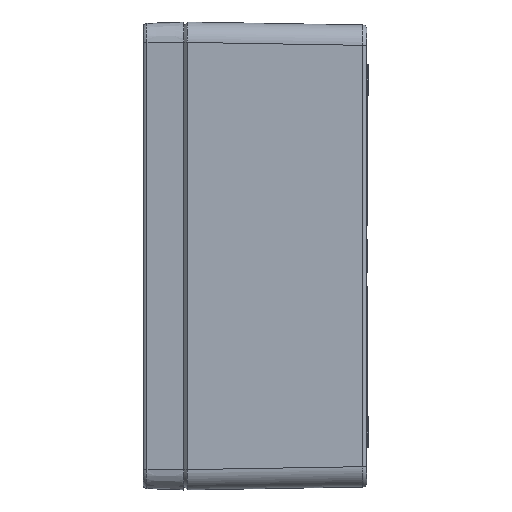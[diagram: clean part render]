
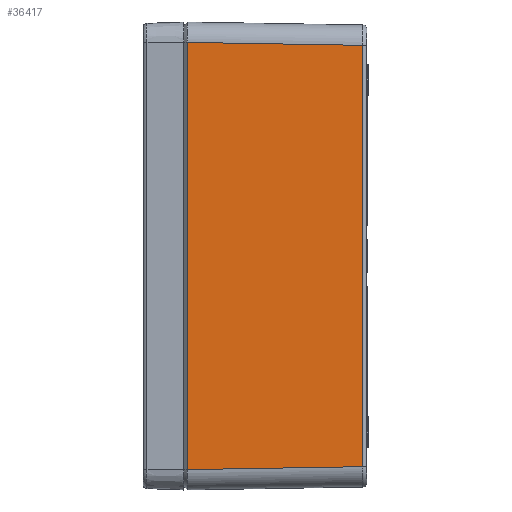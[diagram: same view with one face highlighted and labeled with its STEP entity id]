
A CAD part, left-side view. The second image highlights one B-rep face of the part: STEP entity #36417.
In plain terms, the highlighted planar face has unit normal (-1, -0.017, 0).
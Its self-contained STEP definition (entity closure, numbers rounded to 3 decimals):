
#6882 = LINE ( 'NONE', #36298, #51744 ) ;
#10008 = CARTESIAN_POINT ( 'NONE',  ( 271.893, -1.788, -104.972 ) ) ;
#10101 = CARTESIAN_POINT ( 'NONE',  ( 271.863, 0., -115. ) ) ;
#11384 = EDGE_CURVE ( 'NONE', #34445, #17500, #33574, .T. ) ;
#12583 = EDGE_LOOP ( 'NONE', ( #50953, #48882, #15831, #42420 ) ) ;
#14057 = DIRECTION ( 'NONE',  ( -0.017, 1., 0. ) ) ;
#15831 = ORIENTED_EDGE ( 'NONE', *, *, #11384, .T. ) ;
#17500 = VERTEX_POINT ( 'NONE', #33306 ) ;
#18057 = VECTOR ( 'NONE', #53100, 1000. ) ;
#18865 = LINE ( 'NONE', #44291, #38189 ) ;
#18882 = EDGE_CURVE ( 'NONE', #46085, #34445, #18865, .T. ) ;
#19177 = AXIS2_PLACEMENT_3D ( 'NONE', #10101, #39480, #14057 ) ;
#21396 = DIRECTION ( 'NONE',  ( -0.017, 1., 0.017 ) ) ;
#22262 = FACE_OUTER_BOUND ( 'NONE', #12583, .T. ) ;
#24062 = VECTOR ( 'NONE', #21396, 1000. ) ;
#24141 = DIRECTION ( 'NONE',  ( 0.017, -1., 0.017 ) ) ;
#27124 = LINE ( 'NONE', #44347, #18057 ) ;
#30911 = EDGE_CURVE ( 'NONE', #17500, #49550, #27124, .T. ) ;
#31855 = DIRECTION ( 'NONE',  ( 0., 0., 1. ) ) ;
#33306 = CARTESIAN_POINT ( 'NONE',  ( 271.893, -1.788, 104.972 ) ) ;
#33574 = LINE ( 'NONE', #43119, #24062 ) ;
#34445 = VERTEX_POINT ( 'NONE', #36898 ) ;
#36298 = CARTESIAN_POINT ( 'NONE',  ( 271.86, 0.166, -105.004 ) ) ;
#36417 = ADVANCED_FACE ( 'NONE', ( #22262 ), #52771, .T. ) ;
#36898 = CARTESIAN_POINT ( 'NONE',  ( 273.329, -88.033, 103.535 ) ) ;
#38189 = VECTOR ( 'NONE', #31855, 1000. ) ;
#39480 = DIRECTION ( 'NONE',  ( -1., -0.017, 0. ) ) ;
#39922 = CARTESIAN_POINT ( 'NONE',  ( 273.329, -88.033, -103.535 ) ) ;
#42420 = ORIENTED_EDGE ( 'NONE', *, *, #30911, .T. ) ;
#43119 = CARTESIAN_POINT ( 'NONE',  ( 271.924, -3.661, 104.94 ) ) ;
#44291 = CARTESIAN_POINT ( 'NONE',  ( 273.329, -88.033, 103.503 ) ) ;
#44347 = CARTESIAN_POINT ( 'NONE',  ( 271.893, -1.788, -115. ) ) ;
#45819 = EDGE_CURVE ( 'NONE', #49550, #46085, #6882, .T. ) ;
#46085 = VERTEX_POINT ( 'NONE', #39922 ) ;
#48882 = ORIENTED_EDGE ( 'NONE', *, *, #18882, .T. ) ;
#49550 = VERTEX_POINT ( 'NONE', #10008 ) ;
#50953 = ORIENTED_EDGE ( 'NONE', *, *, #45819, .T. ) ;
#51744 = VECTOR ( 'NONE', #24141, 1000. ) ;
#52771 = PLANE ( 'NONE',  #19177 ) ;
#53100 = DIRECTION ( 'NONE',  ( 0., 0., -1. ) ) ;
